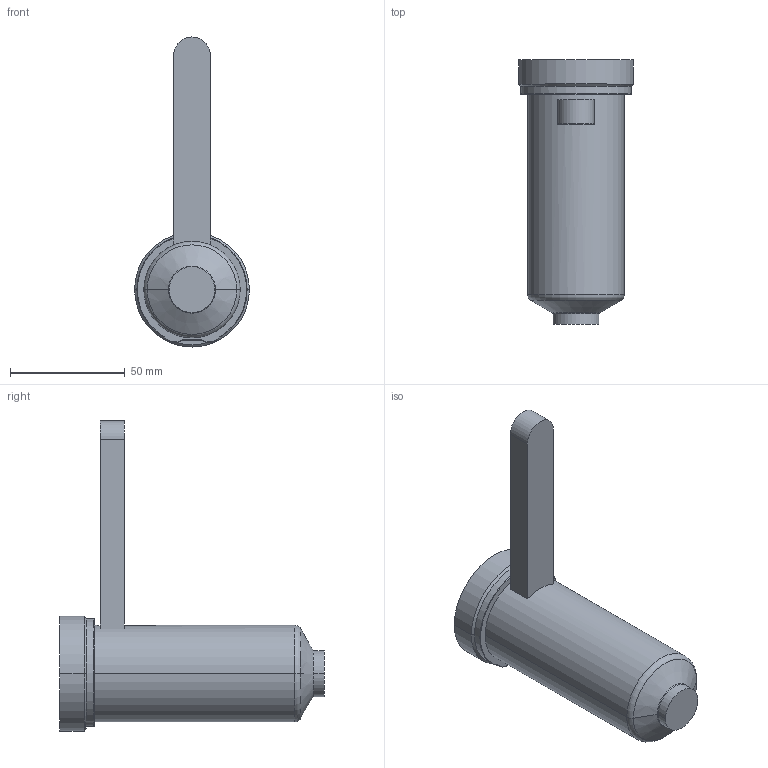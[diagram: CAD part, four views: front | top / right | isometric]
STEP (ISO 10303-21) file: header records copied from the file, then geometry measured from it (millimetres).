
FILE_DESCRIPTION((''),'2;1');
FILE_NAME('EO16_PG-FB_STD_100_COT','2024-02-19T11:40:57',('sundharh'),(''),'CREO PARAMETRIC BY PTC INC, 2023154','CREO PARAMETRIC BY PTC INC, 2023154','');
FILE_SCHEMA(('CONFIG_CONTROL_DESIGN'));
Length unit declared in the file: millimetre
Products named in the file (1): EO16_PG-FB_STD_100_COT
Bounding box: 50 x 115 x 135 mm (x, y, z)
Volume: 173189.8 mm3; surface area: 22945.9 mm2
Topology: 1 solids, 1 shells, 31 faces, 67 edges, 40 vertices
Faces by surface type: cylinder 11, plane 9, torus 7, cone 4
Entity records: 967 total; most frequent: CARTESIAN_POINT 234, DIRECTION 159, ORIENTED_EDGE 134, AXIS2_PLACEMENT_3D 67, EDGE_CURVE 67, VERTEX_POINT 40, CIRCLE 36, EDGE_LOOP 33
